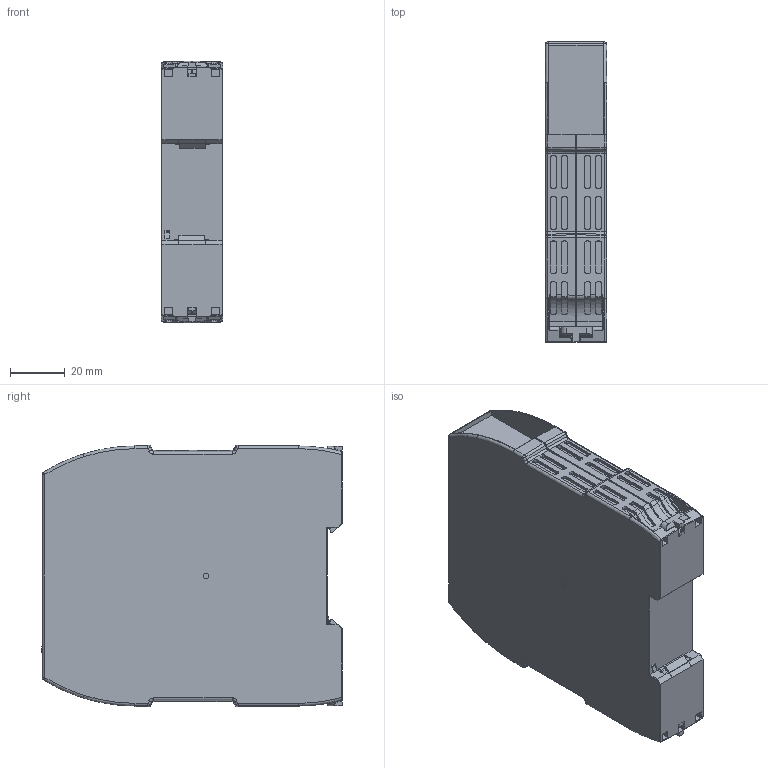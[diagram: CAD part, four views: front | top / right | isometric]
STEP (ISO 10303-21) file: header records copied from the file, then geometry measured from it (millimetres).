
FILE_DESCRIPTION((''),'2;1');
FILE_NAME('2023109','2016-08-04T',('merz'),(''),'PRO/ENGINEER BY PARAMETRIC TECHNOLOGY CORPORATION, 2016100','PRO/ENGINEER BY PARAMETRIC TECHNOLOGY CORPORATION, 2016100','');
FILE_SCHEMA(('AUTOMOTIVE_DESIGN { 1 0 10303 214 1 1 1 1 }'));
Length unit declared in the file: millimetre
Products named in the file (1): 2023109
Bounding box: 22.5 x 110.2 x 96 mm (x, y, z)
Volume: 210002.3 mm3; surface area: 34085.2 mm2
Topology: 3 solids, 3 shells, 824 faces, 2266 edges, 1437 vertices
Faces by surface type: plane 398, cylinder 251, bspline 108, cone 25, torus 20, sphere 18, extrusion 4
Entity records: 39953 total; most frequent: CARTESIAN_POINT 13277, ORIENTED_EDGE 4494, DIRECTION 3523, PRESENTATION_STYLE_ASSIGNMENT 2258, STYLED_ITEM 2254, CURVE_STYLE 2251, EDGE_CURVE 2247, VERTEX_POINT 1431
